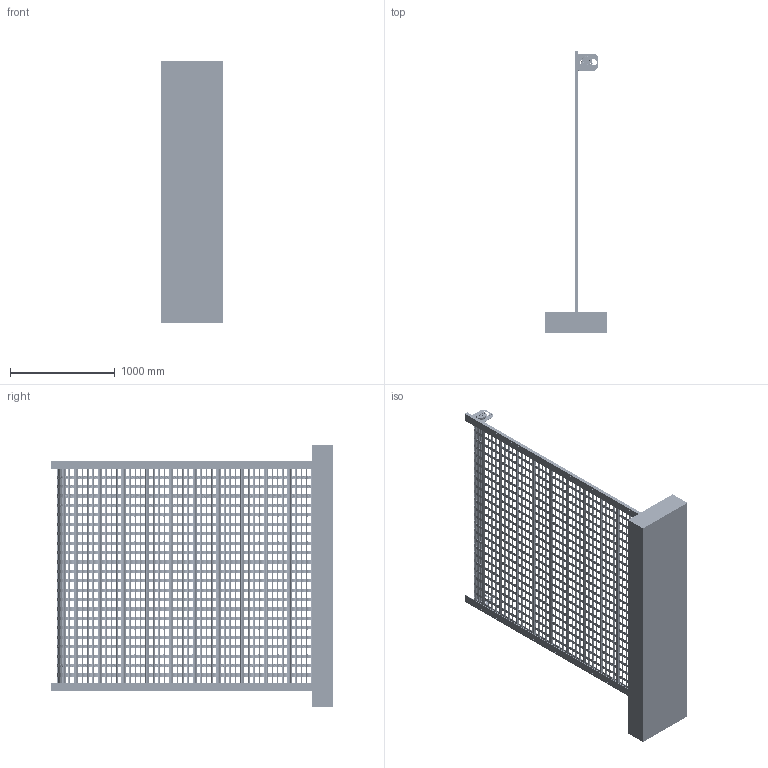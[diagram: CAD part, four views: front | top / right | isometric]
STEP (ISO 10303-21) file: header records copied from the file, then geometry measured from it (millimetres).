
FILE_DESCRIPTION (( 'STEP AP203' ), '1' );
FILE_NAME ('Kokema CD 600 R +VS.STEP', '2019-06-28T08:35:54', ( '' ), ( '' ), 'SwSTEP 2.0', 'SolidWorks 2017', '' );
FILE_SCHEMA (( 'CONFIG_CONTROL_DESIGN' ));
Length unit declared in the file: millimetre
Products named in the file (1): Kokema CD 600 R +VS
Bounding box: 600 x 2700 x 2500 mm (x, y, z)
Volume: 318648915.3 mm3; surface area: 22603345 mm2
Topology: 69 solids, 70 shells, 11211 faces, 36034 edges, 23963 vertices
Faces by surface type: cylinder 5911, plane 5154, torus 86, bspline 36, cone 16, sphere 8
Full cylindrical faces by diameter (mm): 3 x10, 3.5 x2, 4 x17, 6 x1, 7 x2, 7.2 x2, 8 x100, 9 x2, 12 x1, 15.6 x1, 20 x1, 20.537 x1, 21.6 x1, 24.077 x2, 26 x1, 28.863 x1, 40.6 x1, 45 x1, 46 x1, 48 x2
Entity records: 459928 total; most frequent: CARTESIAN_POINT 154313, ORIENTED_EDGE 71450, DIRECTION 54807, EDGE_CURVE 35725, VERTEX_POINT 23837, AXIS2_PLACEMENT_3D 18697, LINE 17413, VECTOR 17413
